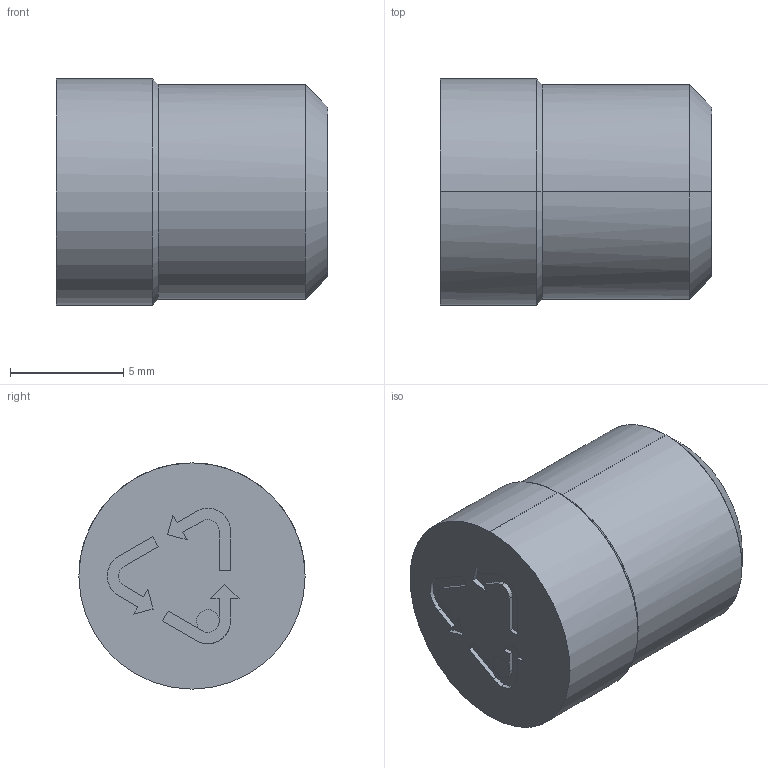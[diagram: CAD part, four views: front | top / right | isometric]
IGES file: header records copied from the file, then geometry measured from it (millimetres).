
Start section: START RECORD GO HERE.
Global section: file name: MN10.igs; native system: DASSAULT SYSTEMES CATIA V5 R20 - www.3ds.com; preprocessor: CATIA Version 5 Release 20 ; author: Utente; organization: NB04-ASUS; date: 20210326.152641; units: millimetre
Bounding box: 12 x 10 x 10 mm (x, y, z)
Surface area: 571.8 mm2 (no closed solid volume)
Topology: 0 solids, 0 shells, 56 faces, 318 edges, 314 vertices
Faces by surface type: plane 32, revolution 24
